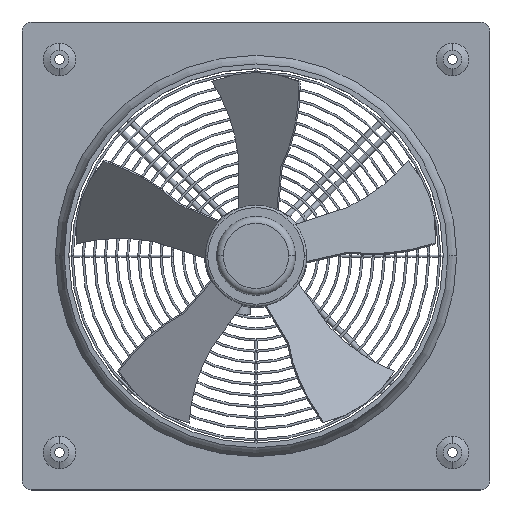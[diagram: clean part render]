
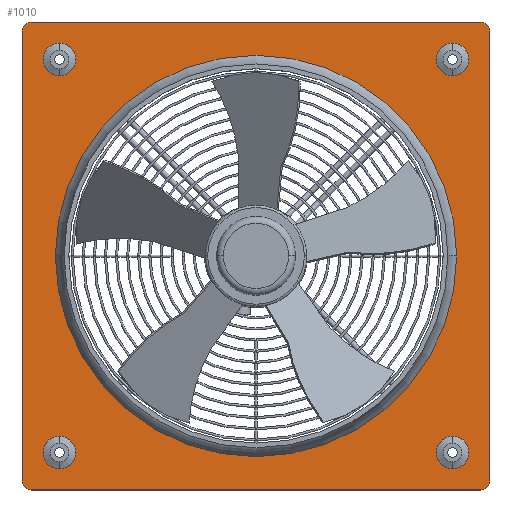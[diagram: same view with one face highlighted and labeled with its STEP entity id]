
A CAD part, top view. The second image highlights one B-rep face of the part: STEP entity #1010.
In plain terms, the highlighted planar face has unit normal (0, 0, 1).
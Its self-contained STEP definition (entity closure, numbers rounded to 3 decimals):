
#1010=ADVANCED_FACE('',(#2327,#2328,#2329,#2330,#2331,#2332),#2333,.T.);
#2327=FACE_BOUND('',#3908,.T.);
#2328=FACE_BOUND('',#3909,.T.);
#2329=FACE_BOUND('',#3910,.T.);
#2330=FACE_BOUND('',#3911,.T.);
#2331=FACE_BOUND('',#3912,.T.);
#2332=FACE_OUTER_BOUND('',#3913,.T.);
#2333=PLANE('',#3914);
#3908=EDGE_LOOP('',(#7078,#7079));
#3909=EDGE_LOOP('',(#7080,#7081));
#3910=EDGE_LOOP('',(#7082,#7083));
#3911=EDGE_LOOP('',(#7084,#7085));
#3912=EDGE_LOOP('',(#7086,#7087));
#3913=EDGE_LOOP('',(#7088,#7089,#7090,#7091,#7092,#7093,#7094,#7095));
#3914=AXIS2_PLACEMENT_3D('',#7096,#7097,#7098);
#7078=ORIENTED_EDGE('',*,*,#10907,.T.);
#7079=ORIENTED_EDGE('',*,*,#10816,.T.);
#7080=ORIENTED_EDGE('',*,*,#10911,.T.);
#7081=ORIENTED_EDGE('',*,*,#10811,.T.);
#7082=ORIENTED_EDGE('',*,*,#10915,.T.);
#7083=ORIENTED_EDGE('',*,*,#10806,.T.);
#7084=ORIENTED_EDGE('',*,*,#10919,.T.);
#7085=ORIENTED_EDGE('',*,*,#10801,.T.);
#7086=ORIENTED_EDGE('',*,*,#10925,.T.);
#7087=ORIENTED_EDGE('',*,*,#10791,.T.);
#7088=ORIENTED_EDGE('',*,*,#10932,.F.);
#7089=ORIENTED_EDGE('',*,*,#10954,.F.);
#7090=ORIENTED_EDGE('',*,*,#10951,.F.);
#7091=ORIENTED_EDGE('',*,*,#10948,.F.);
#7092=ORIENTED_EDGE('',*,*,#10945,.F.);
#7093=ORIENTED_EDGE('',*,*,#10942,.F.);
#7094=ORIENTED_EDGE('',*,*,#10939,.F.);
#7095=ORIENTED_EDGE('',*,*,#10936,.F.);
#7096=CARTESIAN_POINT('',(0.,0.0,12.0));
#7097=DIRECTION('',(0.0,0.0,1.0));
#7098=DIRECTION('',(1.0,0.0,0.0));
#10791=EDGE_CURVE('',#13344,#13342,#13345,.T.);
#10801=EDGE_CURVE('',#13362,#13359,#13363,.T.);
#10806=EDGE_CURVE('',#13371,#13368,#13372,.T.);
#10811=EDGE_CURVE('',#13380,#13377,#13381,.T.);
#10816=EDGE_CURVE('',#13389,#13386,#13390,.T.);
#10907=EDGE_CURVE('',#13386,#13389,#13522,.T.);
#10911=EDGE_CURVE('',#13377,#13380,#13526,.T.);
#10915=EDGE_CURVE('',#13368,#13371,#13530,.T.);
#10919=EDGE_CURVE('',#13359,#13362,#13534,.T.);
#10925=EDGE_CURVE('',#13342,#13344,#13540,.T.);
#10932=EDGE_CURVE('',#13547,#13548,#13549,.T.);
#10936=EDGE_CURVE('',#13548,#13553,#13554,.T.);
#10939=EDGE_CURVE('',#13553,#13557,#13558,.T.);
#10942=EDGE_CURVE('',#13557,#13561,#13562,.T.);
#10945=EDGE_CURVE('',#13561,#13565,#13566,.T.);
#10948=EDGE_CURVE('',#13565,#13569,#13570,.T.);
#10951=EDGE_CURVE('',#13569,#13573,#13574,.T.);
#10954=EDGE_CURVE('',#13573,#13547,#13577,.T.);
#13342=VERTEX_POINT('',#30572);
#13344=VERTEX_POINT('',#30574);
#13345=CIRCLE('',#30575,214.393);
#13359=VERTEX_POINT('',#30591);
#13362=VERTEX_POINT('',#30595);
#13363=CIRCLE('',#30596,17.5);
#13368=VERTEX_POINT('',#30602);
#13371=VERTEX_POINT('',#30606);
#13372=CIRCLE('',#30607,17.5);
#13377=VERTEX_POINT('',#30613);
#13380=VERTEX_POINT('',#30617);
#13381=CIRCLE('',#30618,17.5);
#13386=VERTEX_POINT('',#30624);
#13389=VERTEX_POINT('',#30628);
#13390=CIRCLE('',#30629,17.5);
#13522=CIRCLE('',#30782,17.5);
#13526=CIRCLE('',#30786,17.5);
#13530=CIRCLE('',#30790,17.5);
#13534=CIRCLE('',#30794,17.5);
#13540=CIRCLE('',#30800,214.393);
#13547=VERTEX_POINT('',#30807);
#13548=VERTEX_POINT('',#30808);
#13549=CIRCLE('',#30809,10.0);
#13553=VERTEX_POINT('',#30815);
#13554=LINE('',#30816,#30817);
#13557=VERTEX_POINT('',#30821);
#13558=CIRCLE('',#30822,10.0);
#13561=VERTEX_POINT('',#30826);
#13562=LINE('',#30827,#30828);
#13565=VERTEX_POINT('',#30832);
#13566=CIRCLE('',#30833,10.0);
#13569=VERTEX_POINT('',#30837);
#13570=LINE('',#30838,#30839);
#13573=VERTEX_POINT('',#30843);
#13574=CIRCLE('',#30844,10.0);
#13577=LINE('',#30848,#30849);
#30572=CARTESIAN_POINT('',(-214.393,0.,12.0));
#30574=CARTESIAN_POINT('',(214.393,0.,12.0));
#30575=AXIS2_PLACEMENT_3D('',#33646,#33647,#33648);
#30591=CARTESIAN_POINT('',(-210.0,-192.5,12.0));
#30595=CARTESIAN_POINT('',(-210.0,-227.5,12.0));
#30596=AXIS2_PLACEMENT_3D('',#33664,#33665,#33666);
#30602=CARTESIAN_POINT('',(-210.0,227.5,12.0));
#30606=CARTESIAN_POINT('',(-210.0,192.5,12.0));
#30607=AXIS2_PLACEMENT_3D('',#33672,#33673,#33674);
#30613=CARTESIAN_POINT('',(210.0,-192.5,12.0));
#30617=CARTESIAN_POINT('',(210.0,-227.5,12.0));
#30618=AXIS2_PLACEMENT_3D('',#33680,#33681,#33682);
#30624=CARTESIAN_POINT('',(210.0,227.5,12.0));
#30628=CARTESIAN_POINT('',(210.0,192.5,12.0));
#30629=AXIS2_PLACEMENT_3D('',#33688,#33689,#33690);
#30782=AXIS2_PLACEMENT_3D('',#33853,#33854,#33855);
#30786=AXIS2_PLACEMENT_3D('',#33859,#33860,#33861);
#30790=AXIS2_PLACEMENT_3D('',#33865,#33866,#33867);
#30794=AXIS2_PLACEMENT_3D('',#33871,#33872,#33873);
#30800=AXIS2_PLACEMENT_3D('',#33880,#33881,#33882);
#30807=CARTESIAN_POINT('',(-240.0,-250.0,12.0));
#30808=CARTESIAN_POINT('',(-250.0,-240.0,12.0));
#30809=AXIS2_PLACEMENT_3D('',#33889,#33890,#33891);
#30815=CARTESIAN_POINT('',(-250.0,240.0,12.0));
#30816=CARTESIAN_POINT('',(-250.0,-240.0,12.0));
#30817=VECTOR('',#33894,1.0);
#30821=CARTESIAN_POINT('',(-240.0,250.0,12.0));
#30822=AXIS2_PLACEMENT_3D('',#33896,#33897,#33898);
#30826=CARTESIAN_POINT('',(240.0,250.0,12.0));
#30827=CARTESIAN_POINT('',(-240.0,250.0,12.0));
#30828=VECTOR('',#33900,1.0);
#30832=CARTESIAN_POINT('',(250.0,240.0,12.0));
#30833=AXIS2_PLACEMENT_3D('',#33902,#33903,#33904);
#30837=CARTESIAN_POINT('',(250.0,-240.0,12.0));
#30838=CARTESIAN_POINT('',(250.0,-240.0,12.0));
#30839=VECTOR('',#33906,1.0);
#30843=CARTESIAN_POINT('',(240.0,-250.0,12.0));
#30844=AXIS2_PLACEMENT_3D('',#33908,#33909,#33910);
#30848=CARTESIAN_POINT('',(-240.0,-250.0,12.0));
#30849=VECTOR('',#33912,1.0);
#33646=CARTESIAN_POINT('',(0.,0.0,12.0));
#33647=DIRECTION('',(0.0,0.0,-1.0));
#33648=DIRECTION('',(1.0,0.0,0.0));
#33664=CARTESIAN_POINT('',(-210.0,-210.0,12.0));
#33665=DIRECTION('',(0.0,0.0,-1.0));
#33666=DIRECTION('',(0.0,1.0,0.0));
#33672=CARTESIAN_POINT('',(-210.0,210.0,12.0));
#33673=DIRECTION('',(0.0,0.0,-1.0));
#33674=DIRECTION('',(0.0,1.0,0.0));
#33680=CARTESIAN_POINT('',(210.0,-210.0,12.0));
#33681=DIRECTION('',(0.0,0.0,-1.0));
#33682=DIRECTION('',(0.0,1.0,0.0));
#33688=CARTESIAN_POINT('',(210.0,210.0,12.0));
#33689=DIRECTION('',(0.0,0.0,-1.0));
#33690=DIRECTION('',(0.0,1.0,0.0));
#33853=CARTESIAN_POINT('',(210.0,210.0,12.0));
#33854=DIRECTION('',(0.0,0.0,-1.0));
#33855=DIRECTION('',(0.0,1.0,0.0));
#33859=CARTESIAN_POINT('',(210.0,-210.0,12.0));
#33860=DIRECTION('',(0.0,0.0,-1.0));
#33861=DIRECTION('',(0.0,1.0,0.0));
#33865=CARTESIAN_POINT('',(-210.0,210.0,12.0));
#33866=DIRECTION('',(0.0,0.0,-1.0));
#33867=DIRECTION('',(0.0,1.0,0.0));
#33871=CARTESIAN_POINT('',(-210.0,-210.0,12.0));
#33872=DIRECTION('',(0.0,0.0,-1.0));
#33873=DIRECTION('',(0.0,1.0,0.0));
#33880=CARTESIAN_POINT('',(0.,0.0,12.0));
#33881=DIRECTION('',(0.0,0.0,-1.0));
#33882=DIRECTION('',(1.0,0.0,0.0));
#33889=CARTESIAN_POINT('',(-240.0,-240.0,12.0));
#33890=DIRECTION('',(0.0,0.0,-1.0));
#33891=DIRECTION('',(1.0,0.0,0.0));
#33894=DIRECTION('',(0.0,1.0,0.0));
#33896=CARTESIAN_POINT('',(-240.0,240.0,12.0));
#33897=DIRECTION('',(0.0,0.0,-1.0));
#33898=DIRECTION('',(1.0,0.0,0.0));
#33900=DIRECTION('',(1.0,0.0,0.0));
#33902=CARTESIAN_POINT('',(240.0,240.0,12.0));
#33903=DIRECTION('',(0.0,0.0,-1.0));
#33904=DIRECTION('',(1.0,0.0,0.0));
#33906=DIRECTION('',(-0.0,-1.0,-0.0));
#33908=CARTESIAN_POINT('',(240.0,-240.0,12.0));
#33909=DIRECTION('',(0.0,0.0,-1.0));
#33910=DIRECTION('',(1.0,0.0,0.0));
#33912=DIRECTION('',(-1.0,-0.0,-0.0));
